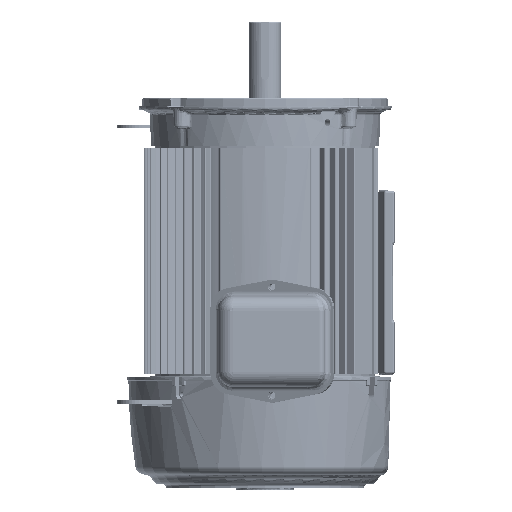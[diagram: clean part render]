
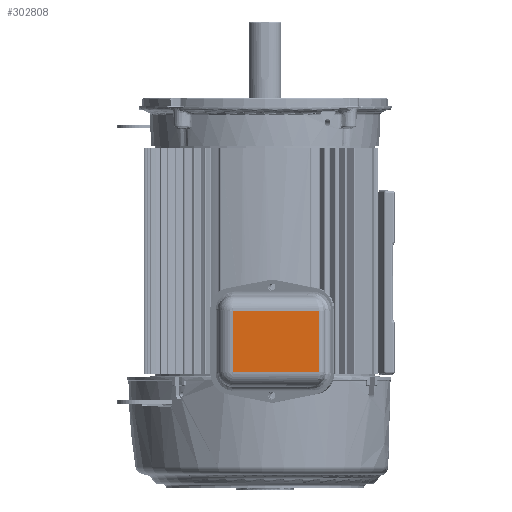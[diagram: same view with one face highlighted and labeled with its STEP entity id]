
A CAD part, left-side view. The second image highlights one B-rep face of the part: STEP entity #302808.
In plain terms, the highlighted planar face has unit normal (-1, 0, 0) as drawn and (0, 0, -1) by its records, which use the part's own axes.
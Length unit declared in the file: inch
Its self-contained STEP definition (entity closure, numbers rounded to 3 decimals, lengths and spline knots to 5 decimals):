
#300693=DIRECTION('',(0.,1.,0.));
#300694=VECTOR('',#300693,2.9822);
#300695=CARTESIAN_POINT('',(1.06,0.5,0.));
#300696=LINE('',#300695,#300694);
#300778=DIRECTION('',(-1.,0.,0.));
#300779=VECTOR('',#300778,2.12);
#300780=CARTESIAN_POINT('',(1.06,3.4822,0.));
#300781=LINE('',#300780,#300779);
#300849=DIRECTION('',(0.,-1.,0.));
#300850=VECTOR('',#300849,2.9822);
#300851=CARTESIAN_POINT('',(-1.06,3.4822,0.));
#300852=LINE('',#300851,#300850);
#300995=DIRECTION('',(1.,0.,0.));
#300996=VECTOR('',#300995,2.12);
#300997=CARTESIAN_POINT('',(-1.06,0.5,0.));
#300998=LINE('',#300997,#300996);
#301054=CARTESIAN_POINT('',(-1.06,0.5,0.));
#301055=CARTESIAN_POINT('',(1.06,0.5,0.));
#301056=VERTEX_POINT('',#301054);
#301057=VERTEX_POINT('',#301055);
#301090=CARTESIAN_POINT('',(1.06,3.4822,0.));
#301091=CARTESIAN_POINT('',(-1.06,3.4822,0.));
#301092=VERTEX_POINT('',#301090);
#301093=VERTEX_POINT('',#301091);
#302797=CARTESIAN_POINT('',(0.,0.,0.));
#302798=DIRECTION('',(0.,0.,1.));
#302799=DIRECTION('',(-1.,0.,0.));
#302800=AXIS2_PLACEMENT_3D('',#302797,#302798,#302799);
#302801=PLANE('',#302800);
#302802=ORIENTED_EDGE('',*,*,#302788,.T.);
#302803=ORIENTED_EDGE('',*,*,#302204,.T.);
#302804=ORIENTED_EDGE('',*,*,#302380,.T.);
#302805=ORIENTED_EDGE('',*,*,#302532,.T.);
#302806=EDGE_LOOP('',(#302802,#302803,#302804,#302805));
#302807=FACE_OUTER_BOUND('',#302806,.F.);
#302808=ADVANCED_FACE('',(#302807),#302801,.F.);
#302204=EDGE_CURVE('',#301057,#301092,#300696,.T.);
#302380=EDGE_CURVE('',#301092,#301093,#300781,.T.);
#302532=EDGE_CURVE('',#301093,#301056,#300852,.T.);
#302788=EDGE_CURVE('',#301056,#301057,#300998,.T.);
